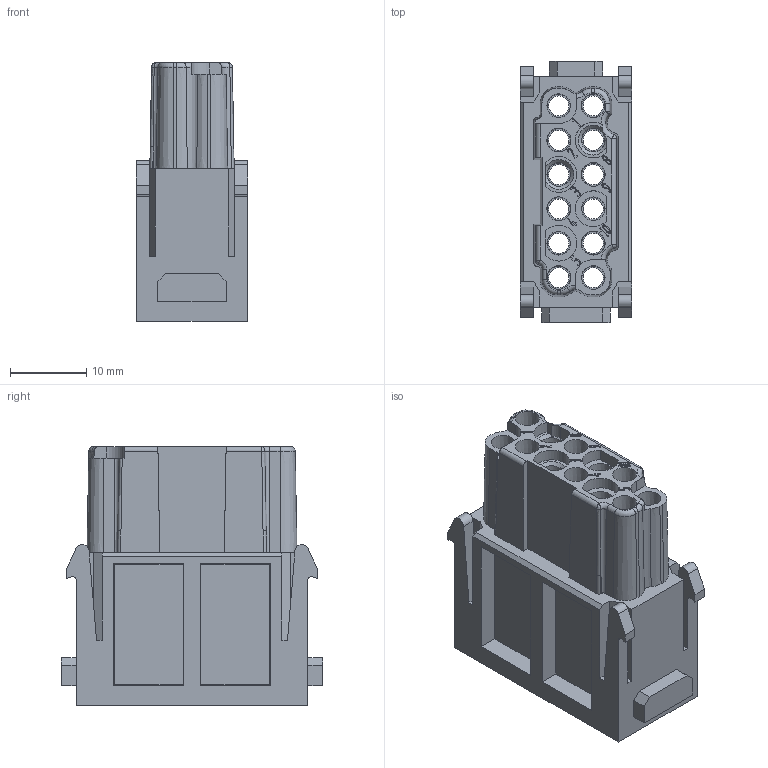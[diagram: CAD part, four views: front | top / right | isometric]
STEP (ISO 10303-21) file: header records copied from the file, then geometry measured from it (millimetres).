
FILE_DESCRIPTION(/* description */ (''),/* implementation_level */ '2;1');
FILE_NAME(/* name */ 'HM-012-F.stp',/* time_stamp */ '2023-11-16T11:28:39+08:00',/* author */ (''),/* organization */ (''),/* preprocessor_version */ 'ST-DEVELOPER v16.7',/* originating_system */ 'SIEMENS PLM Software NX 12.0',/* authorisation */ '');
FILE_SCHEMA (('AUTOMOTIVE_DESIGN { 1 0 10303 214 3 1 1 1 }'));
Length unit declared in the file: millimetre
Products named in the file (1): 09140123101_100173207MOD000F_stp
Bounding box: 14.65 x 34.2 x 33.9 mm (x, y, z)
Volume: 6996.2 mm3; surface area: 8928.8 mm2
Topology: 1 solids, 1 shells, 472 faces, 1283 edges, 858 vertices
Faces by surface type: plane 211, extrusion 165, cylinder 48, cone 28, bspline 11, torus 9
Full cylindrical faces by diameter (mm): 2.62 x12, 4 x12
Entity records: 19000 total; most frequent: CARTESIAN_POINT 4489, ORIENTED_EDGE 2472, DIRECTION 1797, EDGE_CURVE 1236, VERTEX_POINT 853, VECTOR 851, LINE 686, EDGE_LOOP 581
